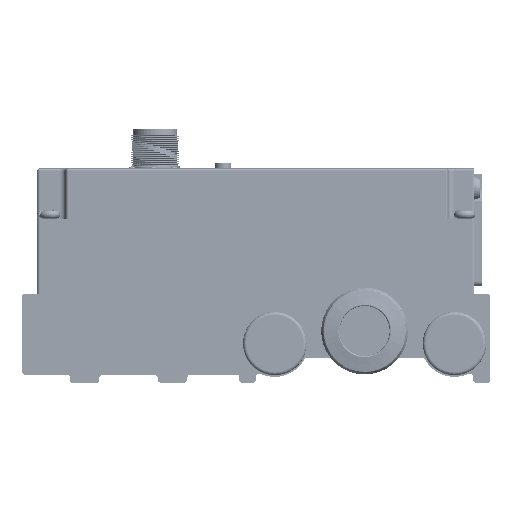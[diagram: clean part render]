
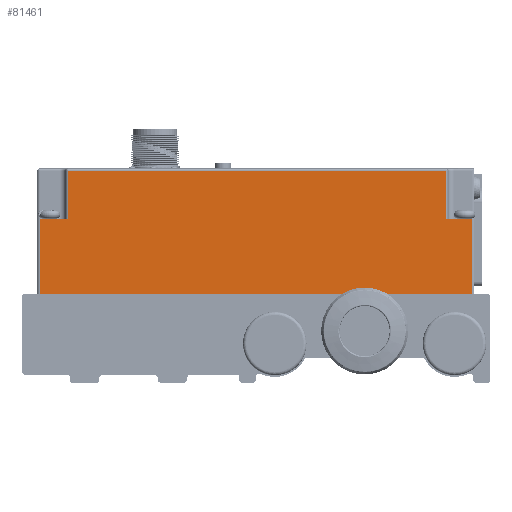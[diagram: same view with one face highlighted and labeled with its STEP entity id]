
A CAD part, front view. The second image highlights one B-rep face of the part: STEP entity #81461.
In plain terms, the highlighted planar face has unit normal (0, -1, 0).
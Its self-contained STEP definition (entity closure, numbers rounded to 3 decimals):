
#833 = ORIENTED_EDGE ( 'NONE', *, *, #99768, .T. ) ;
#3027 = PLANE ( 'NONE',  #130418 ) ;
#3967 = DIRECTION ( 'NONE',  ( 0., 0., 1. ) ) ;
#3973 = CARTESIAN_POINT ( 'NONE',  ( -8.308, 14.81, 55.5 ) ) ;
#4192 = ORIENTED_EDGE ( 'NONE', *, *, #54863, .F. ) ;
#11748 = LINE ( 'NONE', #59587, #167987 ) ;
#12816 = VERTEX_POINT ( 'NONE', #102394 ) ;
#16601 = CARTESIAN_POINT ( 'NONE',  ( -105.498, 15.006, 26. ) ) ;
#17696 = VERTEX_POINT ( 'NONE', #78732 ) ;
#17770 = VECTOR ( 'NONE', #164757, 1000. ) ;
#19926 = ORIENTED_EDGE ( 'NONE', *, *, #138380, .T. ) ;
#21593 = CARTESIAN_POINT ( 'NONE',  ( -8.308, 14.81, 56. ) ) ;
#23748 = EDGE_LOOP ( 'NONE', ( #120265, #71249, #833, #187033, #19926, #152170, #4192, #124004 ) ) ;
#28085 = LINE ( 'NONE', #43684, #37691 ) ;
#31409 = EDGE_CURVE ( 'NONE', #12816, #60479, #165780, .T. ) ;
#32563 = CARTESIAN_POINT ( 'NONE',  ( -98.688, 14.992, 44. ) ) ;
#37691 = VECTOR ( 'NONE', #62365, 1000. ) ;
#43684 = CARTESIAN_POINT ( 'NONE',  ( -1.408, 14.796, 26. ) ) ;
#48164 = LINE ( 'NONE', #66844, #192109 ) ;
#48723 = VERTEX_POINT ( 'NONE', #171399 ) ;
#48941 = VERTEX_POINT ( 'NONE', #114129 ) ;
#49253 = VECTOR ( 'NONE', #51207, 1000. ) ;
#49813 = FACE_OUTER_BOUND ( 'NONE', #23748, .T. ) ;
#50830 = DIRECTION ( 'NONE',  ( -1., 0.002, 0. ) ) ;
#51207 = DIRECTION ( 'NONE',  ( 0., 0., -1. ) ) ;
#54863 = EDGE_CURVE ( 'NONE', #12816, #66585, #48164, .T. ) ;
#55835 = DIRECTION ( 'NONE',  ( 0., 0., 1. ) ) ;
#59587 = CARTESIAN_POINT ( 'NONE',  ( -99.188, 14.993, 55.5 ) ) ;
#60479 = VERTEX_POINT ( 'NONE', #16601 ) ;
#62365 = DIRECTION ( 'NONE',  ( -1., 0.002, 0. ) ) ;
#62697 = VERTEX_POINT ( 'NONE', #195335 ) ;
#66457 = CARTESIAN_POINT ( 'NONE',  ( -1.408, 14.796, 56. ) ) ;
#66585 = VERTEX_POINT ( 'NONE', #162137 ) ;
#66844 = CARTESIAN_POINT ( 'NONE',  ( -107.198, 15.009, 44. ) ) ;
#71249 = ORIENTED_EDGE ( 'NONE', *, *, #189591, .T. ) ;
#72967 = EDGE_CURVE ( 'NONE', #17696, #143711, #118340, .T. ) ;
#78732 = CARTESIAN_POINT ( 'NONE',  ( -8.308, 14.81, 44. ) ) ;
#81461 = ADVANCED_FACE ( 'NONE', ( #49813 ), #3027, .T. ) ;
#99768 = EDGE_CURVE ( 'NONE', #62697, #17696, #158697, .T. ) ;
#102394 = CARTESIAN_POINT ( 'NONE',  ( -105.498, 15.006, 44. ) ) ;
#103371 = CARTESIAN_POINT ( 'NONE',  ( -105.498, 15.006, 56. ) ) ;
#105312 = VECTOR ( 'NONE', #177334, 1000. ) ;
#112639 = DIRECTION ( 'NONE',  ( 1., -0.002, 0. ) ) ;
#114129 = CARTESIAN_POINT ( 'NONE',  ( -98.688, 14.992, 55.5 ) ) ;
#117264 = VECTOR ( 'NONE', #3967, 1000. ) ;
#118340 = LINE ( 'NONE', #21593, #117264 ) ;
#120265 = ORIENTED_EDGE ( 'NONE', *, *, #121727, .F. ) ;
#121727 = EDGE_CURVE ( 'NONE', #48723, #60479, #28085, .T. ) ;
#124004 = ORIENTED_EDGE ( 'NONE', *, *, #31409, .T. ) ;
#127525 = CARTESIAN_POINT ( 'NONE',  ( 0.202, 14.793, 44. ) ) ;
#128257 = LINE ( 'NONE', #32563, #49253 ) ;
#129917 = DIRECTION ( 'NONE',  ( -0.002, -1., 0. ) ) ;
#130418 = AXIS2_PLACEMENT_3D ( 'NONE', #66457, #129917, #50830 ) ;
#138380 = EDGE_CURVE ( 'NONE', #143711, #48941, #11748, .T. ) ;
#143711 = VERTEX_POINT ( 'NONE', #3973 ) ;
#152170 = ORIENTED_EDGE ( 'NONE', *, *, #189694, .T. ) ;
#158697 = LINE ( 'NONE', #127525, #105312 ) ;
#162137 = CARTESIAN_POINT ( 'NONE',  ( -98.688, 14.992, 44. ) ) ;
#164757 = DIRECTION ( 'NONE',  ( 0., 0., -1. ) ) ;
#165780 = LINE ( 'NONE', #103371, #17770 ) ;
#167987 = VECTOR ( 'NONE', #203062, 1000. ) ;
#171399 = CARTESIAN_POINT ( 'NONE',  ( -1.908, 14.797, 26. ) ) ;
#177334 = DIRECTION ( 'NONE',  ( -1., 0.002, 0. ) ) ;
#181973 = VECTOR ( 'NONE', #55835, 1000. ) ;
#187033 = ORIENTED_EDGE ( 'NONE', *, *, #72967, .T. ) ;
#189591 = EDGE_CURVE ( 'NONE', #48723, #62697, #198304, .T. ) ;
#189694 = EDGE_CURVE ( 'NONE', #48941, #66585, #128257, .T. ) ;
#192109 = VECTOR ( 'NONE', #112639, 1000. ) ;
#195335 = CARTESIAN_POINT ( 'NONE',  ( -1.908, 14.797, 44. ) ) ;
#198304 = LINE ( 'NONE', #199331, #181973 ) ;
#199331 = CARTESIAN_POINT ( 'NONE',  ( -1.908, 14.797, 56. ) ) ;
#203062 = DIRECTION ( 'NONE',  ( -1., 0.002, 0. ) ) ;
